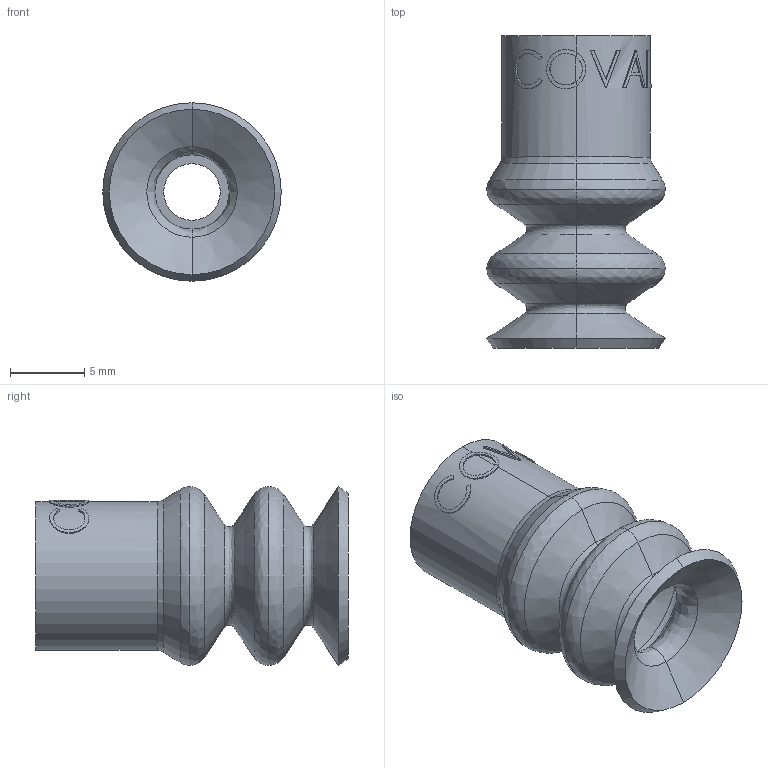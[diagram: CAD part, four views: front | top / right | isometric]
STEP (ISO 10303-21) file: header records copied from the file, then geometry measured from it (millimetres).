
FILE_DESCRIPTION (( 'STEP AP214' ), '1' );
FILE_NAME ('FG-12.STEP', '2023-03-07T06:41:11', ( 'Windows User' ), ( 'P R C' ), 'SwSTEP 2.0', 'SolidWorks 2019', '' );
FILE_SCHEMA (( 'AUTOMOTIVE_DESIGN' ));
Length unit declared in the file: millimetre
Products named in the file (1): FG-12
Bounding box: 12 x 21 x 12 mm (x, y, z)
Volume: 998 mm3; surface area: 1474.3 mm2
Topology: 1 solids, 1 shells, 106 faces, 249 edges, 150 vertices
Faces by surface type: bspline 55, cone 22, plane 16, cylinder 13
Entity records: 11575 total; most frequent: CARTESIAN_POINT 9353, ORIENTED_EDGE 498, DIRECTION 391, EDGE_CURVE 249, AXIS2_PLACEMENT_3D 156, VERTEX_POINT 150, EDGE_LOOP 113, ADVANCED_FACE 106
